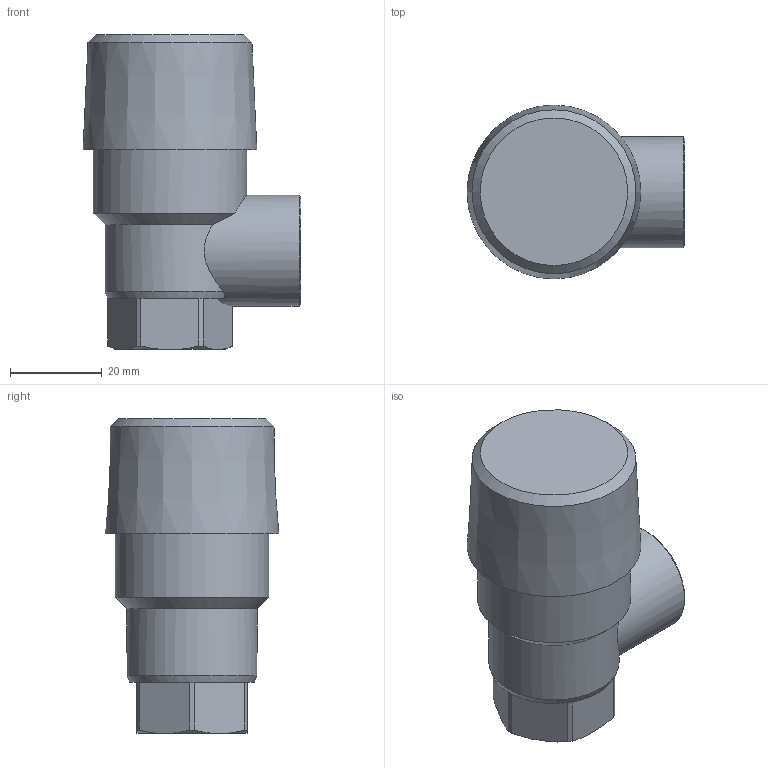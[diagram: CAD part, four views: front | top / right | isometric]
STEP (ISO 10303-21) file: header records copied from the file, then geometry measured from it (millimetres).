
FILE_DESCRIPTION(/* description */ (''),/* implementation_level */ '2;1');
FILE_NAME(/* name */ '\\DATASERVER\data\Flamco\3D-Modellen\Inventor\3D-CAD\Prescor\Prescor B\27101_prescor_b_1-2_1-2_8.stp',/* time_stamp */ '2018-06-07T14:37:02+02:00',/* author */ ('kasius'),/* organization */ (''),/* preprocessor_version */ 'ST-DEVELOPER v16.5',/* originating_system */ 'Autodesk Inventor 2017',/* authorisation */ '');
FILE_SCHEMA (('AUTOMOTIVE_DESIGN { 1 0 10303 214 3 1 1 }'));
Length unit declared in the file: millimetre
Products named in the file (1): 27101_prescor_b_1-2x1-2_8
Bounding box: 47.41 x 37.82 x 68.5 mm (x, y, z)
Volume: 56140.2 mm3; surface area: 11214 mm2
Topology: 1 solids, 1 shells, 42 faces, 108 edges, 71 vertices
Faces by surface type: plane 18, cone 13, cylinder 11
Full cylindrical faces by diameter (mm): 18.462 x1, 19.096 x1, 24.18 x1, 33.358 x1
Entity records: 1300 total; most frequent: CARTESIAN_POINT 299, DIRECTION 204, ORIENTED_EDGE 192, EDGE_CURVE 96, AXIS2_PLACEMENT_3D 84, VERTEX_POINT 68, EDGE_LOOP 54, FACE_OUTER_BOUND 42
